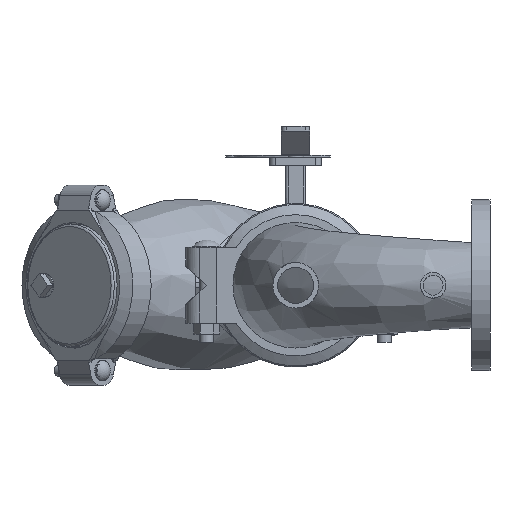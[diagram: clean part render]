
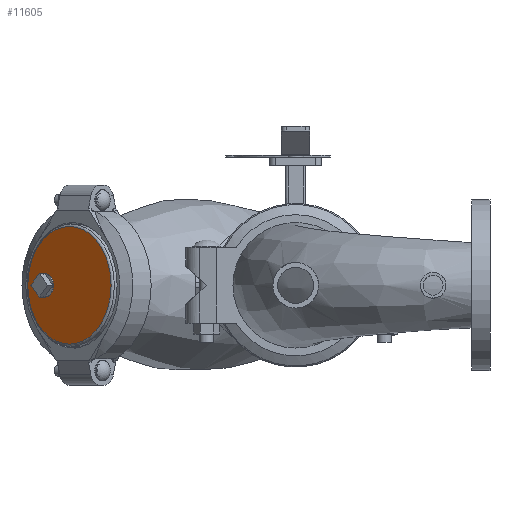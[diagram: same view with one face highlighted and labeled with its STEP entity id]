
A CAD part, front view. The second image highlights one B-rep face of the part: STEP entity #11605.
In plain terms, the highlighted planar face has unit normal (-0.707, -0.707, 0) as drawn and (1, 0, 0) by its records, which use the part's own axes.
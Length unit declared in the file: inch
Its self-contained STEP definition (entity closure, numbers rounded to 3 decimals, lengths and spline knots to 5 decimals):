
#2268=FACE_BOUND('',#3325,.T.);
#2637=FACE_OUTER_BOUND('',#3324,.T.);
#3324=EDGE_LOOP('',(#8509,#8510));
#3325=EDGE_LOOP('',(#8511));
#4010=CIRCLE('',#12786,0.625);
#4018=CIRCLE('',#12797,3.1075);
#4019=CIRCLE('',#12798,3.1075);
#4858=VERTEX_POINT('',#22290);
#4866=VERTEX_POINT('',#22311);
#4867=VERTEX_POINT('',#22312);
#6176=EDGE_CURVE('',#4858,#4858,#4010,.T.);
#6185=EDGE_CURVE('',#4866,#4867,#4018,.T.);
#6186=EDGE_CURVE('',#4867,#4866,#4019,.T.);
#8509=ORIENTED_EDGE('',*,*,#6185,.T.);
#8510=ORIENTED_EDGE('',*,*,#6186,.T.);
#8511=ORIENTED_EDGE('',*,*,#6176,.T.);
#10478=PLANE('',#12800);
#11605=ADVANCED_FACE('',(#2637,#2268),#10478,.T.);
#12786=AXIS2_PLACEMENT_3D('',#22292,#14990,#14991);
#12797=AXIS2_PLACEMENT_3D('',#22313,#15013,#15014);
#12798=AXIS2_PLACEMENT_3D('',#22314,#15015,#15016);
#12800=AXIS2_PLACEMENT_3D('',#22316,#15019,#15020);
#14990=DIRECTION('center_axis',(-1.,0.,0.));
#14991=DIRECTION('ref_axis',(0.,0.,1.));
#15013=DIRECTION('center_axis',(1.,0.,0.));
#15014=DIRECTION('ref_axis',(0.,0.,-1.));
#15015=DIRECTION('center_axis',(1.,0.,0.));
#15016=DIRECTION('ref_axis',(0.,0.,-1.));
#15019=DIRECTION('center_axis',(1.,0.,0.));
#15020=DIRECTION('ref_axis',(0.,0.,-1.));
#22290=CARTESIAN_POINT('',(1.2,1.8,-0.625));
#22292=CARTESIAN_POINT('Origin',(1.2,1.8,0.));
#22311=CARTESIAN_POINT('',(1.2,3.1075,0.));
#22312=CARTESIAN_POINT('',(1.2,0.,3.1075));
#22313=CARTESIAN_POINT('Origin',(1.2,0.,0.));
#22314=CARTESIAN_POINT('Origin',(1.2,0.,0.));
#22316=CARTESIAN_POINT('Origin',(1.2,0.,0.));
